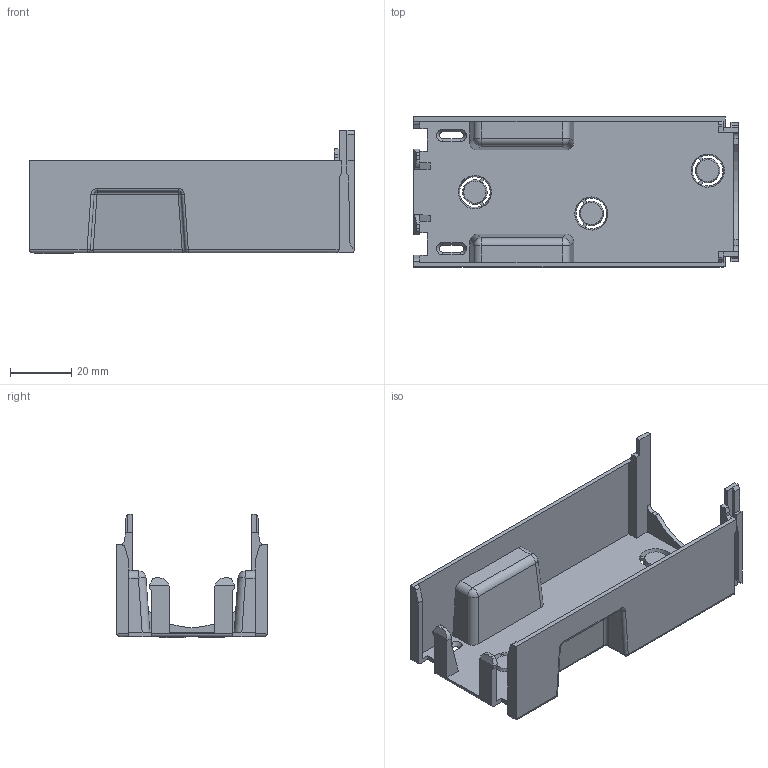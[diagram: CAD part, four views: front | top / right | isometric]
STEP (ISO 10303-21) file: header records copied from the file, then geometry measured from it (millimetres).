
FILE_DESCRIPTION(/* description */ (''),/* implementation_level */ '2;1');
FILE_NAME(/* name */ '71_MZ00KH',/* time_stamp */ '2014-08-13T13:49:55+02:00',/* author */ (''),/* organization */ (''),/* preprocessor_version */ 'ST-DEVELOPER v9',/* originating_system */ 'UGS - NX 4.0',/* authorisation */ '');
FILE_SCHEMA (('CONFIG_CONTROL_DESIGN'));
Length unit declared in the file: millimetre
Products named in the file (1): MTro45BB8c80
Bounding box: 106 x 49 x 40.3 mm (x, y, z)
Surface area: 25864.4 mm2 (no closed solid volume)
Topology: 0 solids, 1 shells, 271 faces, 751 edges, 471 vertices
Faces by surface type: plane 169, cylinder 69, cone 13, sphere 12, bspline 4, torus 4
Entity records: 8486 total; most frequent: CARTESIAN_POINT 1573, ORIENTED_EDGE 1426, DIRECTION 1410, EDGE_CURVE 713, LINE 504, VECTOR 504, VERTEX_POINT 460, AXIS2_PLACEMENT_3D 453
